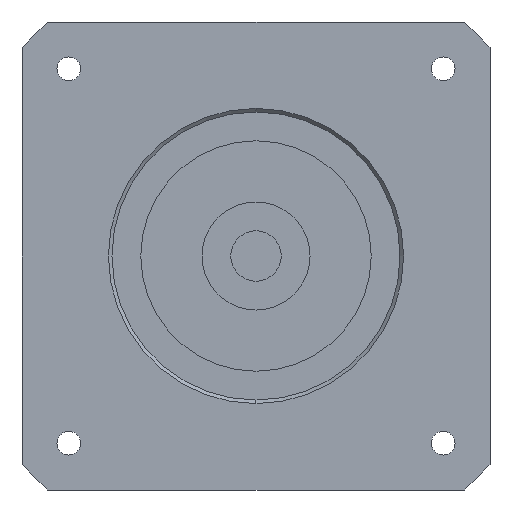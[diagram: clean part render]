
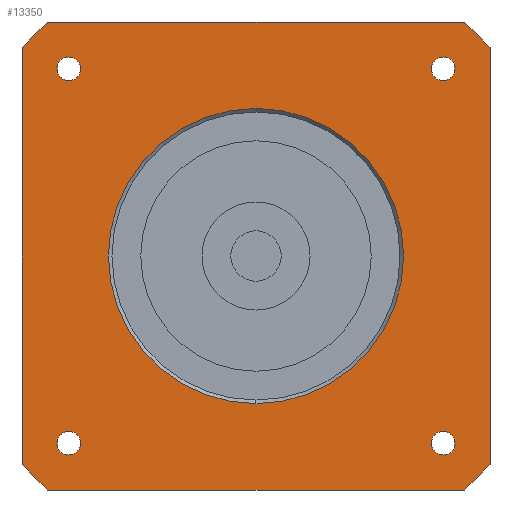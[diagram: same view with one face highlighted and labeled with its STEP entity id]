
A CAD part, left-side view. The second image highlights one B-rep face of the part: STEP entity #13350.
In plain terms, the highlighted planar face has unit normal (-1, 0, 0) as drawn and (0, 0, -1) by its records, which use the part's own axes.
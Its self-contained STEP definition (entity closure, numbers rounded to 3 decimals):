
#8680=CARTESIAN_POINT('',(26.,27.65,-35.));
#8690=VERTEX_POINT('',#8680);
#8870=CARTESIAN_POINT('',(26.,24.35,-35.));
#8880=VERTEX_POINT('',#8870);
#8910=CARTESIAN_POINT('',(26.,26.,-35.));
#8920=DIRECTION('',(0.,0.,-1.));
#8930=DIRECTION('',(1.,0.,0.));
#8940=AXIS2_PLACEMENT_3D('',#8910,#8920,#8930);
#8950=CIRCLE('',#8940,1.65);
#8960=CARTESIAN_POINT('',(27.65,26.,-35.));
#8970=VERTEX_POINT('',#8960);
#8980=EDGE_CURVE('',#8970,#8880,#8950,.T.);
#9000=EDGE_CURVE('',#8690,#8970,#8950,.T.);
#9140=CARTESIAN_POINT('',(26.,-24.35,-35.));
#9150=VERTEX_POINT('',#9140);
#9330=CARTESIAN_POINT('',(26.,-27.65,-35.));
#9340=VERTEX_POINT('',#9330);
#9370=CARTESIAN_POINT('',(26.,-26.,-35.));
#9380=DIRECTION('',(0.,0.,-1.));
#9390=DIRECTION('',(1.,0.,0.));
#9400=AXIS2_PLACEMENT_3D('',#9370,#9380,#9390);
#9410=CIRCLE('',#9400,1.65);
#9420=CARTESIAN_POINT('',(27.65,-26.,-35.));
#9430=VERTEX_POINT('',#9420);
#9440=EDGE_CURVE('',#9430,#9340,#9410,.T.);
#9460=EDGE_CURVE('',#9150,#9430,#9410,.T.);
#11820=CARTESIAN_POINT('',(0.,-20.5,-35.));
#11830=VERTEX_POINT('',#11820);
#11860=CARTESIAN_POINT('',(0.,0.,-35.));
#11870=DIRECTION('',(0.,0.,1.));
#11880=DIRECTION('',(0.,1.,0.));
#11890=AXIS2_PLACEMENT_3D('',#11860,#11870,#11880);
#11900=CIRCLE('',#11890,20.5);
#11910=CARTESIAN_POINT('',(0.,20.5,-35.));
#11920=VERTEX_POINT('',#11910);
#11930=EDGE_CURVE('',#11830,#11920,#11900,.T.);
#12050=CARTESIAN_POINT('',(32.5,32.5,-35.));
#12060=DIRECTION('',(0.,0.,1.));
#12070=DIRECTION('',(0.,1.,0.));
#12080=AXIS2_PLACEMENT_3D('',#12050,#12060,#12070);
#12090=PLANE('',#12080);
#12100=CARTESIAN_POINT('',(-26.,-26.,-35.));
#12110=DIRECTION('',(0.,0.,-1.));
#12120=DIRECTION('',(1.,0.,0.));
#12130=AXIS2_PLACEMENT_3D('',#12100,#12110,#12120);
#12140=CIRCLE('',#12130,1.65);
#12150=CARTESIAN_POINT('',(-24.35,-26.,-35.));
#12160=VERTEX_POINT('',#12150);
#12170=CARTESIAN_POINT('',(-26.,-27.65,-35.));
#12180=VERTEX_POINT('',#12170);
#12190=EDGE_CURVE('',#12160,#12180,#12140,.T.);
#12200=ORIENTED_EDGE('',*,*,#12190,.F.);
#12210=CARTESIAN_POINT('',(-26.,-24.35,-35.));
#12220=VERTEX_POINT('',#12210);
#12230=EDGE_CURVE('',#12180,#12220,#12140,.T.);
#12240=ORIENTED_EDGE('',*,*,#12230,.F.);
#12250=EDGE_CURVE('',#12220,#12160,#12140,.T.);
#12260=ORIENTED_EDGE('',*,*,#12250,.F.);
#12270=EDGE_LOOP('',(#12260,#12240,#12200));
#12280=FACE_BOUND('',#12270,.T.);
#12290=CARTESIAN_POINT('',(-26.,26.,-35.));
#12300=DIRECTION('',(0.,0.,-1.));
#12310=DIRECTION('',(1.,0.,0.));
#12320=AXIS2_PLACEMENT_3D('',#12290,#12300,#12310);
#12330=CIRCLE('',#12320,1.65);
#12340=CARTESIAN_POINT('',(-24.35,26.,-35.));
#12350=VERTEX_POINT('',#12340);
#12360=CARTESIAN_POINT('',(-26.,24.35,-35.));
#12370=VERTEX_POINT('',#12360);
#12380=EDGE_CURVE('',#12350,#12370,#12330,.T.);
#12390=ORIENTED_EDGE('',*,*,#12380,.F.);
#12400=CARTESIAN_POINT('',(-26.,27.65,-35.));
#12410=VERTEX_POINT('',#12400);
#12420=EDGE_CURVE('',#12370,#12410,#12330,.T.);
#12430=ORIENTED_EDGE('',*,*,#12420,.F.);
#12440=EDGE_CURVE('',#12410,#12350,#12330,.T.);
#12450=ORIENTED_EDGE('',*,*,#12440,.F.);
#12460=EDGE_LOOP('',(#12450,#12430,#12390));
#12470=FACE_BOUND('',#12460,.T.);
#12480=ORIENTED_EDGE('',*,*,#8980,.F.);
#12490=EDGE_CURVE('',#8880,#8690,#8950,.T.);
#12500=ORIENTED_EDGE('',*,*,#12490,.F.);
#12510=ORIENTED_EDGE('',*,*,#9000,.F.);
#12520=EDGE_LOOP('',(#12510,#12500,#12480));
#12530=FACE_BOUND('',#12520,.T.);
#12540=ORIENTED_EDGE('',*,*,#9440,.F.);
#12550=EDGE_CURVE('',#9340,#9150,#9410,.T.);
#12560=ORIENTED_EDGE('',*,*,#12550,.F.);
#12570=ORIENTED_EDGE('',*,*,#9460,.F.);
#12580=EDGE_LOOP('',(#12570,#12560,#12540));
#12590=FACE_BOUND('',#12580,.T.);
#12600=EDGE_CURVE('',#11920,#11830,#11900,.T.);
#12610=ORIENTED_EDGE('',*,*,#12600,.T.);
#12620=ORIENTED_EDGE('',*,*,#11930,.T.);
#12630=EDGE_LOOP('',(#12620,#12610));
#12640=FACE_BOUND('',#12630,.T.);
#12650=CARTESIAN_POINT('',(-32.5,32.5,-35.));
#12660=DIRECTION('',(0.,-1.,0.));
#12670=VECTOR('',#12660,1000.);
#12680=LINE('',#12650,#12670);
#12690=CARTESIAN_POINT('',(-32.5,28.914,-35.));
#12700=VERTEX_POINT('',#12690);
#12710=CARTESIAN_POINT('',(-32.5,-28.914,-35.));
#12720=VERTEX_POINT('',#12710);
#12730=EDGE_CURVE('',#12700,#12720,#12680,.T.);
#12740=ORIENTED_EDGE('',*,*,#12730,.F.);
#12750=CARTESIAN_POINT('',(0.,0.,
-35.));
#12760=DIRECTION('',(0.,0.,-1.));
#12770=DIRECTION('',(-1.,0.,0.));
#12780=AXIS2_PLACEMENT_3D('',#12750,#12760,#12770);
#12790=CIRCLE('',#12780,43.5);
#12800=CARTESIAN_POINT('',(-28.914,-32.5,-35.));
#12810=VERTEX_POINT('',#12800);
#12820=EDGE_CURVE('',#12810,#12720,#12790,.T.);
#12830=ORIENTED_EDGE('',*,*,#12820,.T.);
#12840=CARTESIAN_POINT('',(-32.5,-32.5,-35.));
#12850=DIRECTION('',(1.,0.,0.));
#12860=VECTOR('',#12850,1000.);
#12870=LINE('',#12840,#12860);
#12880=CARTESIAN_POINT('',(28.914,-32.5,-35.));
#12890=VERTEX_POINT('',#12880);
#12900=EDGE_CURVE('',#12810,#12890,#12870,.T.);
#12910=ORIENTED_EDGE('',*,*,#12900,.F.);
#12920=CARTESIAN_POINT('',(0.,0.,
-35.));
#12930=DIRECTION('',(0.,0.,-1.));
#12940=DIRECTION('',(-1.,0.,0.));
#12950=AXIS2_PLACEMENT_3D('',#12920,#12930,#12940);
#12960=CIRCLE('',#12950,43.5);
#12970=CARTESIAN_POINT('',(32.5,-28.914,-35.));
#12980=VERTEX_POINT('',#12970);
#12990=EDGE_CURVE('',#12980,#12890,#12960,.T.);
#13000=ORIENTED_EDGE('',*,*,#12990,.T.);
#13010=CARTESIAN_POINT('',(32.5,-32.5,-35.));
#13020=DIRECTION('',(0.,1.,0.));
#13030=VECTOR('',#13020,1000.);
#13040=LINE('',#13010,#13030);
#13050=CARTESIAN_POINT('',(32.5,28.914,-35.));
#13060=VERTEX_POINT('',#13050);
#13070=EDGE_CURVE('',#12980,#13060,#13040,.T.);
#13080=ORIENTED_EDGE('',*,*,#13070,.F.);
#13090=CARTESIAN_POINT('',(0.,0.,
-35.));
#13100=DIRECTION('',(0.,0.,-1.));
#13110=DIRECTION('',(-1.,0.,0.));
#13120=AXIS2_PLACEMENT_3D('',#13090,#13100,#13110);
#13130=CIRCLE('',#13120,43.5);
#13140=CARTESIAN_POINT('',(28.914,32.5,-35.));
#13150=VERTEX_POINT('',#13140);
#13160=EDGE_CURVE('',#13150,#13060,#13130,.T.);
#13170=ORIENTED_EDGE('',*,*,#13160,.T.);
#13180=CARTESIAN_POINT('',(32.5,32.5,-35.));
#13190=DIRECTION('',(-1.,0.,0.));
#13200=VECTOR('',#13190,1000.);
#13210=LINE('',#13180,#13200);
#13220=CARTESIAN_POINT('',(-28.914,32.5,-35.));
#13230=VERTEX_POINT('',#13220);
#13240=EDGE_CURVE('',#13150,#13230,#13210,.T.);
#13250=ORIENTED_EDGE('',*,*,#13240,.F.);
#13260=CARTESIAN_POINT('',(0.,0.,
-35.));
#13270=DIRECTION('',(0.,0.,-1.));
#13280=DIRECTION('',(-1.,0.,0.));
#13290=AXIS2_PLACEMENT_3D('',#13260,#13270,#13280);
#13300=CIRCLE('',#13290,43.5);
#13310=EDGE_CURVE('',#12700,#13230,#13300,.T.);
#13320=ORIENTED_EDGE('',*,*,#13310,.T.);
#13330=EDGE_LOOP('',(#13320,#13250,#13170,#13080,#13000,#12910,#12830,
#12740));
#13340=FACE_OUTER_BOUND('',#13330,.T.);
#13350=ADVANCED_FACE('',(#12280,#12470,#12530,#12590,#12640,#13340),
#12090,.F.);
